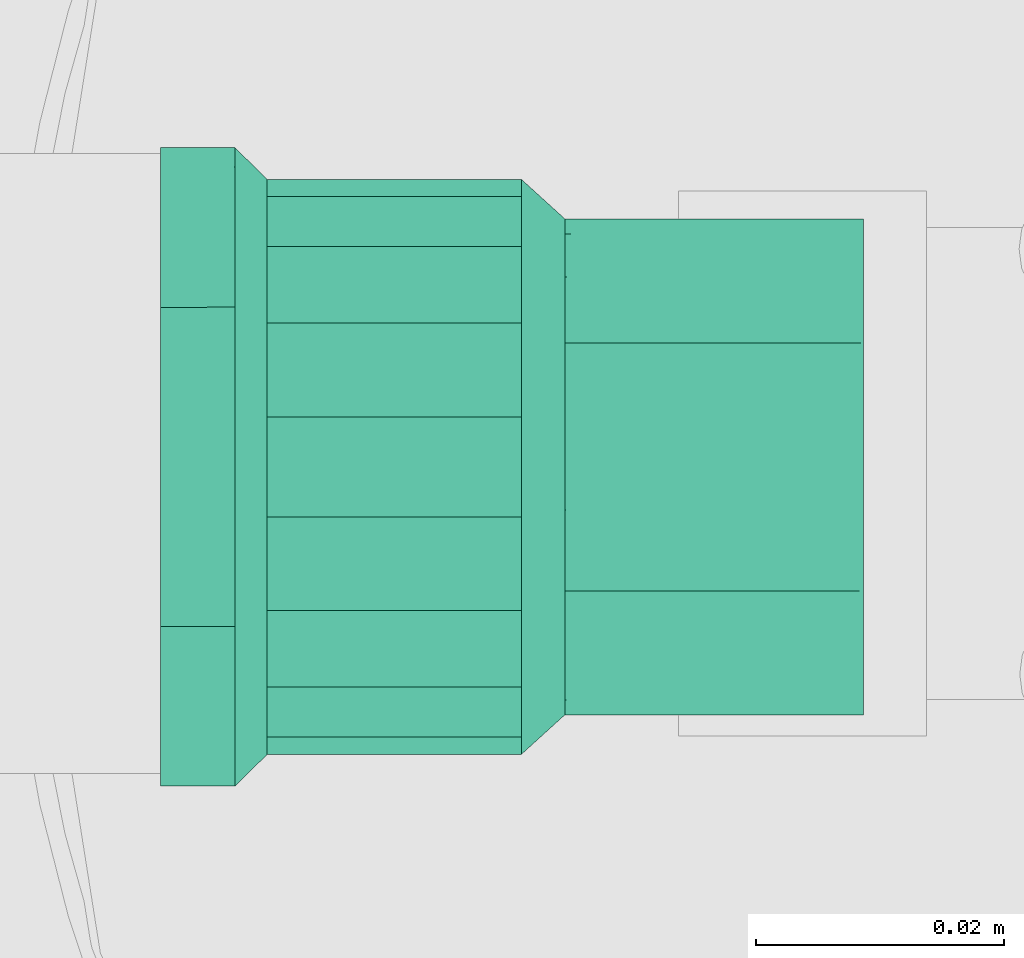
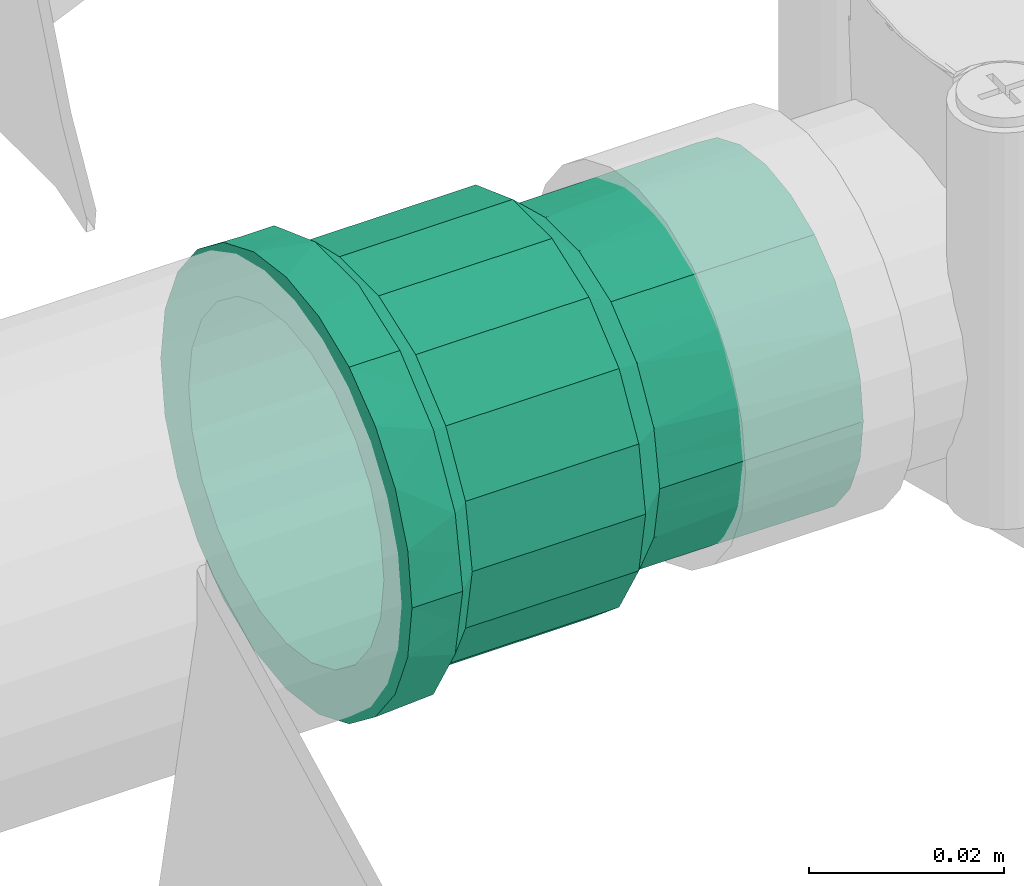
# One storey, part 141 of 166: 1 flow fitting.
"""IFC2X3 building model written with IfcOpenShell, lengths in metres."""

from ifc_helpers import new_model, entity, si_unit, converted_unit, direction, frame, origin, place, context, subcontext, project, spatial, faceted_brep, source, transform, mapped, material, type_object, type_shapes, element, save


model = new_model("IFC2X3")

# Units and contexts
model_context = context("Model", 3, precision=1e-05, world=origin(), true_north=direction((6.123233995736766e-17, 1.0)))
body_context = subcontext(model_context, "Body", "Model", "MODEL_VIEW")
ifc_project = project(units=[si_unit("LENGTHUNIT", "METRE"), converted_unit("PLANEANGLEUNIT", "DEGREE", entity("IfcPlaneAngleMeasure", 0.017453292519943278), si_unit("PLANEANGLEUNIT", "RADIAN"), dimensions=[0, 0, 0, 0, 0, 0, 0]), si_unit("AREAUNIT", "SQUARE_METRE")], contexts=[model_context])

# Site, building, storey
site_placement = place(None, origin())
site = spatial("IfcSite", under=ifc_project, at=site_placement, Name="Default", CompositionType="ELEMENT")
building_placement = place(site_placement, origin())
building = spatial("IfcBuilding", under=site, at=building_placement, Name="CASA DE ACOLHIDA PARA IDOSOS", CompositionType="ELEMENT")
storey_placement = place(building_placement, frame((0.0, 0.0, -1.7499999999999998)))
storey = spatial("IfcBuildingStorey", under=building, at=storey_placement, Name="IMPLANTAÇÃO DRENAGEM", CompositionType="ELEMENT", Elevation=-1.7499999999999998)

# Flow fitting
ifc_material = material(Name="PVC Marrom")
pipe_fitting_type = type_object("IfcPipeFittingType", Name="AF_Soldavel_Adaptador Curto com Bolsa e Rosca:Standard", PredefinedType="NOTDEFINED", material=ifc_material)
shared_shape = source(origin(), body_context, "Body", "Brep", [
    faceted_brep([(0.0, 0.0099999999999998, -0.017320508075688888), (0.0, 0.018207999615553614, -0.018207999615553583), (0.0, 0.012875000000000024, -0.02230015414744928), (0.0, 0.014142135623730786, -0.014142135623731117), (0.0, 0.0051763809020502, -0.019318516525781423), (0.0, 0.022300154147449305, -0.01287499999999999), (0.0, 0.01732050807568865, -0.01000000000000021), (0.0, 0.0193185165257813, -0.005176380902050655), (0.0, 0.02487259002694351, -0.006664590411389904), (0.0, 0.02, 0.0), (0.0, 0.025750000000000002, 0.0), (0.0, 0.019318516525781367, 0.00517638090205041), (0.0, 0.024872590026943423, 0.006664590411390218), (0.0, 0.01732050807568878, 0.00999999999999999), (0.0, 0.02230015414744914, 0.012875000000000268), (0.0, 0.014142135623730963, 0.014142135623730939), (0.0, 0.018207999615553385, 0.018207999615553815), (0.0, 0.010000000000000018, 0.017320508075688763), (0.0, 0.012874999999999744, 0.022300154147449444), (0.0, 0.00517638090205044, 0.01931851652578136), (0.0, 0.006664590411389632, 0.024872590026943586), (0.0, 0.0, 0.02), (0.0, 0.0, 0.025750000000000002), (0.0, -0.005176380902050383, 0.019318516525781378), (0.0, -0.0066645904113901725, 0.024872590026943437), (0.0, -0.009999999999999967, 0.017320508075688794), (0.0, -0.012875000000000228, 0.022300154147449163), (0.0, -0.01414213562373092, 0.014142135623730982), (0.0, -0.01820799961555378, 0.01820799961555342), (0.0, -0.01732050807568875, 0.010000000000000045), (0.0, -0.02230015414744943, 0.012874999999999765), (0.0, -0.024872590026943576, 0.006664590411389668), (0.0, -0.01931851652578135, 0.005176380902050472), (0.0, -0.025750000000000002, 0.0), (0.0, -0.02, 0.0), (0.0, -0.02487259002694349, -0.006664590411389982), (0.0, -0.01931851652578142, -0.005176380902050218), (0.0, -0.02230015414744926, -0.012875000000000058), (0.0, -0.01732050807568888, -0.009999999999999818), (0.0, -0.01820799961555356, -0.018207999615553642), (0.0, -0.014142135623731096, -0.014142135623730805), (0.0, -0.012874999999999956, -0.022300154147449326), (0.0, -0.010000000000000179, -0.01732050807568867), (0.0, -0.006664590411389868, -0.024872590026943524), (0.0, -0.005176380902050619, -0.01931851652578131), (0.0, 0.0, -0.025750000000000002), (0.0, 0.0, -0.02), (0.0, 0.006664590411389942, -0.0248725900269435), (0.005999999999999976, -0.024973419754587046, 0.004403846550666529), (0.005999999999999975, -0.024768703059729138, 0.005564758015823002), (0.005999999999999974, -0.024196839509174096, 0.008807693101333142), (0.005999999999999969, -0.019724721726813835, 0.016552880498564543), (0.005999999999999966, -0.016298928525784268, 0.019427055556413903), (0.005999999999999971, -0.021960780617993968, 0.012680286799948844), (0.005999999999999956, -0.004468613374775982, 0.02535929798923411), (0.00599999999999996, -0.008670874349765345, 0.02383026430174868), (0.0059999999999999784, -0.025750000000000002, 0.0), (0.0059999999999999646, -0.01287313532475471, 0.02230123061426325), (0.005999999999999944, 0.008676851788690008, 0.023828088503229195), (0.00599999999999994, 0.012878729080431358, 0.022298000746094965), (0.005999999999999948, 0.004474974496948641, 0.02535817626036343), (0.005999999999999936, 0.016303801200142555, 0.019422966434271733), (0.005999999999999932, 0.019728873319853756, 0.016547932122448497), (0.005999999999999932, 0.024199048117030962, 0.008801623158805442), (0.0059999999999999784, 0.025750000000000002, 0.0), (0.005999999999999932, 0.021963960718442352, 0.012674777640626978), (0.0059999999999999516, 3.180561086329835e-06, 0.02535873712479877), (0.006000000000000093, 0.024199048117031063, -0.00880162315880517), (0.006000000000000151, 0.019728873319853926, -0.016547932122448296), (0.006000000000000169, 0.01630380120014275, -0.019422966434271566), (0.006000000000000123, 0.021963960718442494, -0.012674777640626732), (0.006000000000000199, 0.004474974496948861, -0.025358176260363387), (0.006000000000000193, 0.008676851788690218, -0.023828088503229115), (0.006000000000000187, 0.012878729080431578, -0.02229800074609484), (0.006000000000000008, -0.02497341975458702, -0.004403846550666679), (0.006000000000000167, -0.008670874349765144, -0.023830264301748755), (0.0060000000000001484, -0.012873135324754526, -0.022301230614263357), (0.006000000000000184, -0.004468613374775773, -0.02535929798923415), (0.006000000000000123, -0.016298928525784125, -0.019427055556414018), (0.006000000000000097, -0.01972472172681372, -0.016552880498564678), (0.006000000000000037, -0.024196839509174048, -0.008807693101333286), (0.006000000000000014, -0.024768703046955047, -0.005564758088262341), (0.006000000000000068, -0.021960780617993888, -0.012680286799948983), (0.006000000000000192, 3.1805610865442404e-06, -0.02535873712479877), (0.029099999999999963, -0.021800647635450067, 0.007935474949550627), (0.008600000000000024, -0.021800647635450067, 0.007935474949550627), (0.008600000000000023, -0.022500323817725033, 0.0039677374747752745), (0.00860000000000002, -0.023200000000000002, 0.0), (0.02910000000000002, -0.023200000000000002, 0.0), (0.02909999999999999, -0.022482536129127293, 0.004068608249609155), (0.02909999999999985, -0.011598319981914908, 0.020092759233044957), (0.00860000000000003, -0.011598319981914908, 0.020092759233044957), (0.00860000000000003, -0.014684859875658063, 0.017503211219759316), (0.008600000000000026, -0.017771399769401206, 0.014913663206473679), (0.029099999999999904, -0.017771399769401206, 0.014913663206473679), (0.02909999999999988, -0.014684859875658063, 0.017503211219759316), (0.008600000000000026, -0.019786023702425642, 0.011424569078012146), (0.02909999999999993, -0.019786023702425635, 0.01142456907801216), (0.00860000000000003, -0.007812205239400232, 0.02147037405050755), (0.02909999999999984, -0.007812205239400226, 0.021470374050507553), (0.029099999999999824, -0.004026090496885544, 0.02284798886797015), (0.00860000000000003, -0.004026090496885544, 0.02284798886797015), (0.00860000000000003, 2.8655929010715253e-06, 0.022847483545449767), (0.029099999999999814, 2.8655929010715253e-06, 0.022847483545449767), (0.029099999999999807, 0.004031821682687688, 0.022846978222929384), (0.00860000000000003, 0.004031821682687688, 0.022846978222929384), (0.029099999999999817, 0.011603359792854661, 0.020089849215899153), (0.00860000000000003, 0.011603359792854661, 0.020089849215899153), (0.00860000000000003, 0.007817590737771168, 0.021468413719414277), (0.029099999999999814, 0.007817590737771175, 0.021468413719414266), (0.029099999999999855, 0.017775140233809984, 0.014909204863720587), (0.00860000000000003, 0.017775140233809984, 0.014909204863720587), (0.00860000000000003, 0.01468925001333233, 0.017499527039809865), (0.02909999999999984, 0.014689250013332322, 0.01749952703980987), (0.02909999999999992, 0.021802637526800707, 0.00793000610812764), (0.008600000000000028, 0.021802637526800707, 0.00793000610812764), (0.00860000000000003, 0.019788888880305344, 0.01141960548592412), (0.02909999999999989, 0.019788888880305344, 0.011419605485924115), (0.02910000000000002, 0.023200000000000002, 0.0), (0.00860000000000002, 0.023200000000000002, 0.0), (0.029100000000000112, 0.021802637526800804, -0.007930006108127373), (0.008600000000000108, 0.021802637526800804, -0.007930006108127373), (0.00860000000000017, -0.011598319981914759, -0.020092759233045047), (0.02910000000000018, -0.011598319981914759, -0.020092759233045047), (0.02910000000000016, -0.01468485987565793, -0.017503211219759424), (0.029100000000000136, -0.0177713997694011, -0.014913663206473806), (0.008600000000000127, -0.0177713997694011, -0.014913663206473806), (0.00860000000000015, -0.01468485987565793, -0.017503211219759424), (0.0086000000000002, 0.01160335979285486, -0.020089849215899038), (0.00860000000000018, 0.014689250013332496, -0.017499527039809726), (0.008600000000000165, 0.017775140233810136, -0.014909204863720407), (0.02910000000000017, 0.017775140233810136, -0.014909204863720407), (0.029100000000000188, 0.014689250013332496, -0.017499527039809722), (0.02910000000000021, 0.01160335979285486, -0.020089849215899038), (0.029100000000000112, -0.01978602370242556, -0.011424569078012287), (0.02910000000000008, -0.021800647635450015, -0.007935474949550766), (0.008600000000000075, -0.021800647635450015, -0.007935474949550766), (0.0086000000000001, -0.01978602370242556, -0.011424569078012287), (0.008600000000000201, -0.004026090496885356, -0.022847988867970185), (0.029100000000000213, -0.004026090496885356, -0.022847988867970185), (0.029100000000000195, -0.007812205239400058, -0.021470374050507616), (0.008600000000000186, -0.007812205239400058, -0.021470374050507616), (0.008600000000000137, 0.019788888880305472, -0.01141960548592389), (0.029100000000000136, 0.01978888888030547, -0.01141960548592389), (0.008600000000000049, -0.02250032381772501, -0.00396773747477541), (0.029100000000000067, -0.022258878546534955, -0.005336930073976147), (0.029100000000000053, -0.02248253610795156, -0.004068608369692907), (0.008600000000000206, 0.00781759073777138, -0.02146841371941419), (0.029100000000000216, 0.00781759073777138, -0.02146841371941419), (0.029100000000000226, 0.0040318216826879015, -0.022846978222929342), (0.008600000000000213, 0.0040318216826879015, -0.022846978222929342), (0.008600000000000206, 2.8655929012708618e-06, -0.022847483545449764), (0.02910000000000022, 2.8655929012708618e-06, -0.022847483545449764), (0.056699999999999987, 0.0, -0.02), (0.056699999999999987, 0.00517638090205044, -0.01931851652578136), (0.056699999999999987, 0.010000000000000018, -0.017320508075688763), (0.056699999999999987, 0.014142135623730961, -0.01414213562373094), (0.056699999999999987, 0.01732050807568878, -0.009999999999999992), (0.056699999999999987, 0.019318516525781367, -0.00517638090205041), (0.056699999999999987, 0.02, 0.0), (0.056699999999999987, 0.0193185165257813, 0.005176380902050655), (0.056699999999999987, 0.01732050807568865, 0.01000000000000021), (0.056699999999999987, 0.014142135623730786, 0.014142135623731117), (0.056699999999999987, 0.0099999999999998, 0.017320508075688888), (0.056699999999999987, 0.0051763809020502, 0.019318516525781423), (0.056699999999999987, 0.0, 0.02), (0.056699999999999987, -0.005176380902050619, 0.01931851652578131), (0.056699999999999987, -0.010000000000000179, 0.01732050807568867), (0.056699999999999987, -0.014142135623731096, 0.014142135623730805), (0.056699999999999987, -0.01732050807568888, 0.009999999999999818), (0.056699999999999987, -0.01931851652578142, 0.005176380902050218), (0.056699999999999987, -0.02, 0.0), (0.056699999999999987, -0.01931851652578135, -0.005176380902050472), (0.056699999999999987, -0.01732050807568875, -0.010000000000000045), (0.056699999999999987, -0.01414213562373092, -0.014142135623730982), (0.056699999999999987, -0.009999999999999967, -0.017320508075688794), (0.056699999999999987, -0.005176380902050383, -0.019318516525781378), (0.03261999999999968, -0.0067346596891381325, 0.018508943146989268), (0.03261999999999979, -0.015320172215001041, 0.012856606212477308), (0.03261999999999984, -0.017056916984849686, 0.0098487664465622), (0.032619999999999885, -0.01879366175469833, 0.006840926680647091), (0.032619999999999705, -0.009998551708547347, 0.01732134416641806), (0.032619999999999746, -0.012659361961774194, 0.015088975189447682), (0.03261999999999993, -0.019188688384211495, 0.004600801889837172), (0.032619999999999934, -0.01939683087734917, 0.0034204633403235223), (0.03261999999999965, -0.0034707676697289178, 0.019696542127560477), (0.03261999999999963, 0.0034757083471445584, 0.019695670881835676), (0.032619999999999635, 2.470338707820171e-06, 0.019696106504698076), (0.03261999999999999, -0.02, 0.0), (0.032619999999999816, 0.01879537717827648, 0.006836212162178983), (0.03261999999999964, 0.006739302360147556, 0.018507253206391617), (0.03261999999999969, 0.012663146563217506, 0.0150857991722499), (0.032619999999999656, 0.010002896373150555, 0.017318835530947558), (0.03261999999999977, 0.01705938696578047, 0.009844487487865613), (0.03261999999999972, 0.015323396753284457, 0.012852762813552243), (0.03261999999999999, 0.02, 0.0), (0.03262000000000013, 0.015323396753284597, -0.012852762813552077), (0.0326200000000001, 0.017059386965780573, -0.009844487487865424), (0.03262000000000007, 0.018795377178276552, -0.006836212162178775), (0.032620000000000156, 0.010002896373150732, -0.017318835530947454), (0.03262000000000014, 0.012663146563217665, -0.015085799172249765), (0.03262000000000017, 0.0034757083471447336, -0.019695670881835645), (0.03262000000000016, 0.006739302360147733, -0.01850725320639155), (0.032620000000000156, -0.0034707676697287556, -0.019696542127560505), (0.03262000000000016, 2.4703387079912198e-06, -0.019696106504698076), (0.03262000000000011, -0.012659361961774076, -0.015088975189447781), (0.032620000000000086, -0.015320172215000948, -0.01285660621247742), (0.03262000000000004, -0.018793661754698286, -0.006840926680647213), (0.03262000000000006, -0.01705691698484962, -0.009848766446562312), (0.03262000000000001, -0.01939683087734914, -0.0034204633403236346), (0.03262000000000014, -0.006734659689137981, -0.018508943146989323), (0.03262000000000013, -0.009998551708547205, -0.017321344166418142), (0.00860000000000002, -0.02, 0.0), (0.02910000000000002, -0.02, 0.0), (0.02910000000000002, -0.019318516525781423, -0.005176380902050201), (0.00860000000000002, -0.019318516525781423, -0.005176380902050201), (0.0059999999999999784, -0.019318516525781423, -0.005176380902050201), (0.0059999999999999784, -0.02, 0.0), (0.02910000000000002, -0.017320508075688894, -0.009999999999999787), (0.00860000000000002, -0.017320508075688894, -0.009999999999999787), (0.0059999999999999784, -0.017320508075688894, -0.009999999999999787), (0.00860000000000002, -0.010000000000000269, -0.017320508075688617), (0.0059999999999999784, -0.010000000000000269, -0.017320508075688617), (0.0059999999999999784, -0.014142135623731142, -0.01414213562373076), (0.00860000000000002, -0.014142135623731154, -0.014142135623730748), (0.02910000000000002, -0.014142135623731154, -0.014142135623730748), (0.02910000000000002, -0.010000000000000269, -0.017320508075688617), (0.00860000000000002, -0.005176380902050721, -0.019318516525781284), (0.0059999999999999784, -0.005176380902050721, -0.019318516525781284), (0.02910000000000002, -0.005176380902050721, -0.019318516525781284), (0.02910000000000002, 0.0, -0.02), (0.00860000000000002, 0.0, -0.02), (0.0059999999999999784, 0.0, -0.02), (0.02910000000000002, 0.005176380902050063, -0.01931851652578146), (0.00860000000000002, 0.005176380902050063, -0.01931851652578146), (0.0059999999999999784, 0.005176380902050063, -0.01931851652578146), (0.02910000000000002, 0.009999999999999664, -0.017320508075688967), (0.00860000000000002, 0.009999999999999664, -0.017320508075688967), (0.0059999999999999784, 0.009999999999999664, -0.017320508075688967), (0.00860000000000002, 0.017320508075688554, -0.010000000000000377), (0.0059999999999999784, 0.017320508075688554, -0.010000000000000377), (0.0059999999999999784, 0.01414213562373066, -0.014142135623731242), (0.00860000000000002, 0.014142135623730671, -0.01414213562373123), (0.02910000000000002, 0.014142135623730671, -0.01414213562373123), (0.02910000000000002, 0.017320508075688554, -0.010000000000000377), (0.00860000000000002, 0.019318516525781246, -0.00517638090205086), (0.0059999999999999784, 0.019318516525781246, -0.00517638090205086), (0.02910000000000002, 0.019318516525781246, -0.00517638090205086), (0.02910000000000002, 0.02, 0.0), (0.00860000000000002, 0.02, 0.0), (0.0059999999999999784, 0.02, 0.0), (0.02910000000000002, 0.01931851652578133, 0.005176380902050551), (0.00860000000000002, 0.01931851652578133, 0.005176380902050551), (0.0059999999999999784, 0.01931851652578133, 0.005176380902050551), (0.02910000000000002, 0.017320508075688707, 0.010000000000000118), (0.00860000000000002, 0.017320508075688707, 0.010000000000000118), (0.0059999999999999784, 0.017320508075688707, 0.010000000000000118), (0.00860000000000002, 0.009999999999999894, 0.017320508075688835), (0.0059999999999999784, 0.009999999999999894, 0.017320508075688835), (0.0059999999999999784, 0.014142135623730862, 0.014142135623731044), (0.00860000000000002, 0.014142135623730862, 0.014142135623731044), (0.02910000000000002, 0.014142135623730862, 0.014142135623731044), (0.02910000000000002, 0.009999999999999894, 0.017320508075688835), (0.00860000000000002, 0.005176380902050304, 0.019318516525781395), (0.0059999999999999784, 0.005176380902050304, 0.019318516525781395), (0.02910000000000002, 0.005176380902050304, 0.019318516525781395), (0.02910000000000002, 0.0, 0.02), (0.00860000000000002, 0.0, 0.02), (0.0059999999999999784, 0.0, 0.02), (0.02910000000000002, -0.005176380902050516, 0.01931851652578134), (0.00860000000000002, -0.005176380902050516, 0.01931851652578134), (0.0059999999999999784, -0.005176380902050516, 0.01931851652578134), (0.00860000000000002, -0.019318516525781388, 0.005176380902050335), (0.0059999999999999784, -0.019318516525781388, 0.005176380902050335), (0.0059999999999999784, -0.017320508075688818, 0.009999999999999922), (0.00860000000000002, -0.017320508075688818, 0.009999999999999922), (0.02910000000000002, -0.017320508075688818, 0.009999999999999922), (0.02910000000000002, -0.019318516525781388, 0.005176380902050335), (0.00860000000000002, -0.014142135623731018, 0.014142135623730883), (0.02910000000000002, -0.014142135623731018, 0.014142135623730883), (0.0059999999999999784, -0.014142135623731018, 0.014142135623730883), (0.02910000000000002, -0.010000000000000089, 0.017320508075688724), (0.00860000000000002, -0.010000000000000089, 0.017320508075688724), (0.0059999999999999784, -0.010000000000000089, 0.017320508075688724)], [[[0, 1, 2]], [[3, 1, 0]], [[4, 0, 2]], [[1, 3, 5]], [[5, 3, 6]], [[5, 6, 7]], [[8, 5, 7]], [[9, 8, 7]], [[10, 8, 9]], [[10, 9, 11]], [[12, 10, 11]], [[12, 11, 13]], [[14, 12, 13]], [[14, 13, 15]], [[15, 16, 14]], [[15, 17, 16]], [[18, 16, 17]], [[19, 18, 17]], [[18, 19, 20]], [[21, 20, 19]], [[22, 20, 21]], [[21, 23, 22]], [[24, 22, 23]], [[25, 24, 23]], [[24, 25, 26]], [[25, 27, 26]], [[27, 28, 26]], [[28, 27, 29]], [[28, 29, 30]], [[30, 29, 31]], [[31, 29, 32]], [[33, 31, 32]], [[32, 34, 33]], [[33, 34, 35]], [[34, 36, 35]], [[37, 35, 36]], [[37, 36, 38]], [[39, 37, 38]], [[40, 39, 38]], [[40, 41, 39]], [[42, 41, 40]], [[43, 41, 42]], [[42, 44, 43]], [[43, 44, 45]], [[44, 46, 45]], [[46, 4, 47]], [[45, 46, 47]], [[2, 47, 4]], [[31, 48, 49, 50]], [[28, 51, 52]], [[51, 30, 50, 53]], [[54, 24, 55]], [[30, 31, 50]], [[56, 48, 33]], [[52, 57, 26]], [[52, 26, 28]], [[30, 51, 28]], [[58, 59, 18]], [[58, 18, 20]], [[26, 57, 55]], [[26, 55, 24]], [[22, 24, 54]], [[33, 48, 31]], [[20, 60, 58]], [[16, 61, 62]], [[12, 63, 64]], [[63, 14, 62, 65]], [[12, 64, 10]], [[18, 61, 16]], [[22, 54, 66, 60]], [[22, 60, 20]], [[14, 16, 62]], [[59, 61, 18]], [[14, 63, 12]], [[8, 64, 67]], [[1, 68, 69]], [[68, 5, 67, 70]], [[71, 47, 72]], [[5, 8, 67]], [[8, 10, 64]], [[2, 72, 47]], [[69, 73, 2]], [[5, 68, 1]], [[74, 33, 35]], [[75, 76, 41]], [[2, 73, 72]], [[75, 41, 43]], [[45, 47, 71]], [[69, 2, 1]], [[43, 77, 75]], [[39, 78, 79]], [[35, 80, 81, 74]], [[80, 37, 79, 82]], [[37, 80, 35]], [[41, 78, 39]], [[45, 71, 83, 77]], [[45, 77, 43]], [[37, 39, 79]], [[76, 78, 41]], [[74, 56, 33]], [[84, 85, 86, 87, 88, 89]], [[90, 91, 92, 93, 94, 95]], [[96, 85, 84, 97, 94, 93]], [[98, 91, 90, 99, 100, 101]], [[102, 101, 100, 103, 104, 105]], [[106, 107, 108, 105, 104, 109]], [[110, 111, 112, 107, 106, 113]], [[114, 115, 116, 111, 110, 117]], [[114, 118, 119, 115]], [[119, 118, 120, 121]], [[122, 123, 124, 125, 126, 127]], [[128, 129, 130, 131, 132, 133]], [[134, 135, 136, 137, 126, 125]], [[138, 139, 140, 123, 122, 141]], [[142, 121, 120, 143, 131, 130]], [[88, 87, 144, 136, 135, 145, 146]], [[147, 128, 133, 148, 149, 150]], [[151, 150, 149, 152, 139, 138]], [[153, 154, 155, 156, 157, 158, 159, 160, 161, 162, 163, 164, 165, 166, 167, 168, 169, 170, 171, 172, 173, 174, 175, 176]], [[177, 167, 166]], [[169, 168, 178]], [[169, 178, 179, 180]], [[181, 182, 167]], [[170, 180, 183, 184]], [[166, 185, 177]], [[178, 168, 182]], [[165, 186, 187, 185]], [[167, 182, 168]], [[184, 171, 170]], [[184, 188, 171]], [[169, 180, 170]], [[164, 186, 165]], [[161, 160, 189]], [[163, 190, 164]], [[191, 192, 163]], [[161, 189, 193, 194]], [[195, 160, 159]], [[190, 186, 164]], [[163, 192, 190]], [[161, 194, 162]], [[177, 181, 167]], [[162, 194, 191]], [[191, 163, 162]], [[160, 195, 189]], [[165, 185, 166]], [[195, 159, 158]], [[157, 156, 196]], [[157, 196, 197, 198]], [[199, 200, 155]], [[198, 195, 158]], [[154, 201, 202]], [[196, 156, 200]], [[153, 203, 204, 201]], [[153, 201, 154]], [[155, 200, 156]], [[205, 175, 174]], [[202, 155, 154]], [[202, 199, 155]], [[173, 206, 174]], [[157, 198, 158]], [[173, 172, 207]], [[173, 207, 208, 206]], [[171, 209, 172]], [[171, 188, 209]], [[176, 210, 203]], [[203, 153, 176]], [[211, 210, 175]], [[175, 210, 176]], [[174, 206, 205]], [[209, 207, 172]], [[205, 211, 175]], [[212, 213, 214, 215, 216, 36, 34, 217]], [[215, 214, 218, 219, 220, 38, 36, 216]], [[221, 222, 42, 40, 223, 224, 225, 226]], [[225, 224, 223, 40, 38, 220, 219, 218]], [[227, 228, 44, 42, 222, 221, 226, 229]], [[227, 229, 230, 231, 232, 46, 44, 228]], [[231, 230, 233, 234, 235, 4, 46, 232]], [[234, 233, 236, 237, 238, 0, 4, 235]], [[239, 240, 6, 3, 241, 242, 243, 244]], [[243, 242, 241, 3, 0, 238, 237, 236]], [[245, 246, 7, 6, 240, 239, 244, 247]], [[247, 248, 249, 250, 9, 7, 246, 245]], [[249, 248, 251, 252, 253, 11, 9, 250]], [[252, 251, 254, 255, 256, 13, 11, 253]], [[257, 258, 17, 15, 259, 260, 261, 262]], [[261, 260, 259, 15, 13, 256, 255, 254]], [[263, 264, 19, 17, 258, 257, 262, 265]], [[263, 265, 266, 267, 268, 21, 19, 264]], [[269, 270, 271, 23, 21, 268, 267, 266]], [[272, 273, 32, 29, 274, 275, 276, 277]], [[278, 279, 276, 275, 274, 29, 27, 280]], [[212, 217, 34, 32, 273, 272, 277, 213]], [[281, 282, 283, 25, 23, 271, 270, 269]], [[279, 278, 280, 27, 25, 283, 282, 281]], [[119, 121, 67, 64]], [[128, 73, 69, 68, 130, 129]], [[73, 128, 147, 150, 71, 72]], [[130, 68, 70, 67, 121, 142]], [[77, 138, 141, 122, 76, 75]], [[136, 80, 82, 79, 126, 137]], [[81, 80, 136, 144, 87, 56, 74]], [[83, 71, 150, 151, 138, 77]], [[78, 76, 122, 127, 126, 79]], [[85, 50, 49, 48, 56, 87, 86]], [[53, 50, 85, 96, 93, 51]], [[52, 51, 93, 92, 91, 57]], [[91, 98, 101, 54, 55, 57]], [[102, 105, 60, 66, 54, 101]], [[108, 107, 59, 58, 60, 105]], [[115, 119, 64, 63]], [[111, 116, 115, 63, 65, 62]], [[107, 112, 111, 62, 61, 59]], [[230, 229, 226, 225, 218, 214, 213, 277, 276, 279, 281, 269, 266, 265, 262, 261, 254, 251, 248, 247, 244, 243, 236, 233]], [[84, 89, 88, 188, 184, 183, 180]], [[185, 100, 99, 90, 181, 177]], [[95, 94, 178, 182, 181, 90]], [[97, 84, 180, 179, 178, 94]], [[100, 185, 187, 186, 104, 103]], [[189, 114, 117, 110, 194, 193]], [[104, 186, 190, 192, 106, 109]], [[189, 195, 118, 114]], [[113, 106, 192, 191, 194, 110]], [[195, 198, 120, 118]], [[133, 199, 202, 201, 149, 148]], [[199, 133, 132, 131, 196, 200]], [[143, 120, 198, 197, 196, 131]], [[139, 203, 210, 211, 123, 140]], [[207, 135, 134, 125, 206, 208]], [[145, 135, 207, 209, 188, 88, 146]], [[152, 149, 201, 204, 203, 139]], [[124, 123, 211, 205, 206, 125]]]),
])
type_shapes(pipe_fitting_type, [shared_shape])
flow_fitting_placement = place(storey_placement, frame((-49.25616936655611, -16.745328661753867, -0.20000000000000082)))
element("IfcFlowFitting", 1, at=flow_fitting_placement, inside=storey, type_object=pipe_fitting_type, material=ifc_material, Name="AF_Soldavel_Adaptador Curto com Bolsa e Rosca:Standard", ObjectType="AF_Soldavel_Adaptador Curto com Bolsa e Rosca:Standard", context=body_context, shape_type="MappedRepresentation", body=[
    mapped(shared_shape, transform((0.0, 0.0, 0.0), scale=1.0)),
])

save(model, "model.ifc")
